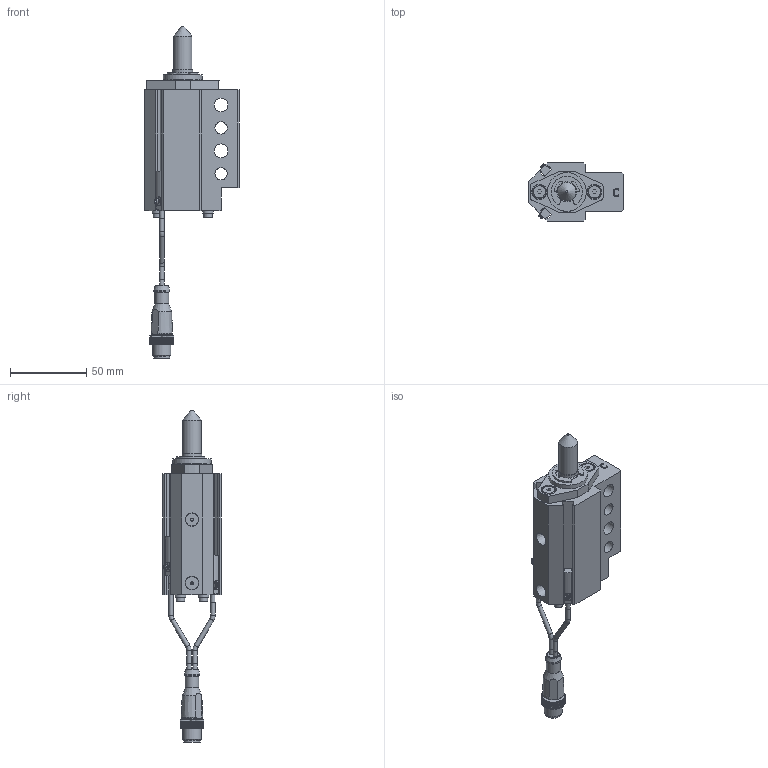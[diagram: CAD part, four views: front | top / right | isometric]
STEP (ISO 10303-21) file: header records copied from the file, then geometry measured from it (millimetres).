
FILE_DESCRIPTION(/* description */ ('NAAMS FLOATING MICRO PIN'),/* implementation_level */ '2;1');
FILE_NAME(/* name */ 'C:\Vault Workspace\CAD\Welker\Shot Pin\NMP\NMP120022ACNL3.stp',/* time_stamp */ '2021-01-27T10:22:33-05:00',/* author */ ('WELKER'),/* organization */ (''),/* preprocessor_version */ 'ST-DEVELOPER v18.1',/* originating_system */ 'Autodesk Inventor 2020',/* authorisation */ '');
FILE_SCHEMA (('AUTOMOTIVE_DESIGN { 1 0 10303 214 3 1 1 }'));
Length unit declared in the file: millimetre
Products named in the file (16): NMPL01; NMP L3 SWITCH; L3 Connector; L3 Sensor 1; L3 Sensor 2; L3 Sensor cable; L3 Sensor cable 2; M3X0.5-8 SHCS; NL3; NMPE06; NMPE03; NMPE05-DIA-LENGTH; 985432A218; NMPE01C-PORT; RMPE02; M5X5 SHOULDER
Assembly tree (22 placements, depth 3):
  NMPL01
    NMP L3 SWITCH
      L3 Connector
      L3 Sensor 1
      L3 Sensor 2
      L3 Sensor cable
      L3 Sensor cable 2
    M3X0.5-8 SHCS  x4
    NL3  x4
    NMPE06
    NMPE03
    NMPE05-DIA-LENGTH
    985432A218
    NMPE01C-PORT
    RMPE02
    M5X5 SHOULDER  x2
Bounding box: 62 x 38.1 x 217.12 mm (x, y, z)
Volume: 112144.4 mm3; surface area: 45762.6 mm2
Topology: 21 solids, 21 shells, 752 faces, 2040 edges, 1364 vertices
Faces by surface type: plane 545, cylinder 144, cone 31, bspline 18, torus 11, sphere 3
Full cylindrical faces by diameter (mm): 2 x2, 2.459 x4, 2.9 x10, 3 x5, 3.242 x2, 3.4 x4, 4 x2, 5 x6, 5.5 x4, 7 x4, 8 x2, 8.3 x2, 9 x5, 10 x3, 10.4 x1, 10.5 x1, 12 x2, 13 x3, 16 x2, 19.05 x3, 21 x1, 22.5 x1, 23.672 x1, 24 x1, 25.4 x1, 25.5 x1, 26.5 x1, 28.677 x1, 29.21 x1, 31.75 x2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
Entity records: 23061 total; most frequent: CARTESIAN_POINT 4367, ORIENTED_EDGE 3778, DIRECTION 3695, EDGE_CURVE 1889, LINE 1377, VECTOR 1377, VERTEX_POINT 1269, AXIS2_PLACEMENT_3D 1159
